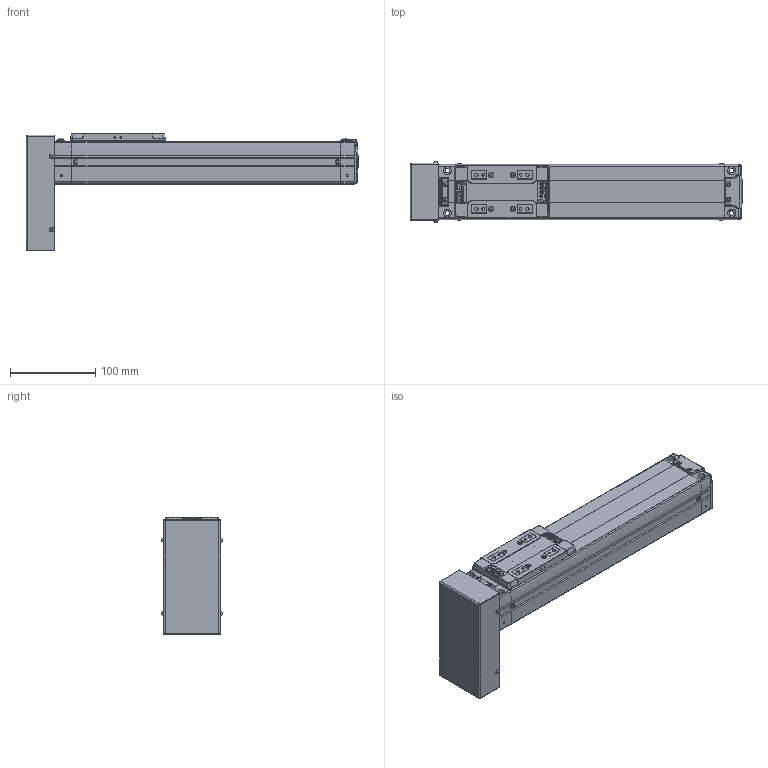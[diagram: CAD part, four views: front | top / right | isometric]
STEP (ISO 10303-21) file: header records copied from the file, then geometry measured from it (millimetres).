
FILE_DESCRIPTION(('STEP AP214'),'1');
FILE_NAME('Z:/Web/3D/SAN65/STP/SAN65ㅁㅁ-200PB.stp','2012-06-14T04:16:44',(' '),(' '),'Spatial InterOp 3D',' ',' ');
FILE_SCHEMA(('automotive_design'));
Length unit declared in the file: metre
Products named in the file (34): SAN65__-200; BODY-SAN65; REAR-SAN65; RRCV-SAN65; 스크루 : Round - M3.0 x 6.0; FRONT-SAN65; SHAFT-SAN65; RN8 x 0.75; SSFX-SAN65; SLIDE-SAN65; SLCV-SAN65; 스크루 : Countersunk - M3.0 x 6.0; ____198; PB; BTCV-SAN65; M3.0 x 6.0
Assembly tree (33 placements, depth 4):
  ____198
    SAN65__-200
      BODY-SAN65
      REAR-SAN65
        REAR-SAN65
        RRCV-SAN65
        스크루 : Round - M3.0 x 6.0
        스크루 : Round - M3.0 x 6.0
        스크루 : Round - M3.0 x 6.0
        스크루 : Round - M3.0 x 6.0
        스크루 : Round - M3.0 x 6.0
        스크루 : Round - M3.0 x 6.0
      FRONT-SAN65
        FRONT-SAN65
        SHAFT-SAN65
        RN8 x 0.75
        SSFX-SAN65
        스크루 : Round - M3.0 x 6.0
        스크루 : Round - M3.0 x 6.0
        스크루 : Round - M3.0 x 6.0
        스크루 : Round - M3.0 x 6.0
      SLIDE-SAN65
        SLIDE-SAN65
        SLCV-SAN65
        스크루 : Countersunk - M3.0 x 6.0
        스크루 : Countersunk - M3.0 x 6.0
        스크루 : Countersunk - M3.0 x 6.0
        스크루 : Countersunk - M3.0 x 6.0
    PB
      BTCV-SAN65
      M3.0 x 6.0
      M3.0 x 6.0
      M3.0 x 6.0
      M3.0 x 6.0
Bounding box: 390.15 x 71.13 x 138.5 mm (x, y, z)
Volume: 1448509.1 mm3; surface area: 193461.4 mm2
Topology: 28 solids, 28 shells, 1456 faces, 3736 edges, 2430 vertices
Faces by surface type: plane 891, cylinder 414, cone 77, bspline 30, sphere 26, torus 15, extrusion 3
Full cylindrical faces by diameter (mm): 0.571 x2, 0.706 x1, 1.727 x2, 2.132 x1, 2.2 x4, 2.5 x9, 2.528 x4, 3 x6, 3.121 x2, 3.3 x4, 3.4 x8, 3.5 x6, 4.2 x20, 4.849 x4, 5 x3, 5.5 x4, 5.987 x2, 6 x6, 6.35 x1, 7 x1, 8 x4, 9.5 x4, 13 x1, 15 x1, 19 x1, 26 x1, 38.1 x1
Entity records: 59688 total; most frequent: CARTESIAN_POINT 12330, DIRECTION 7327, ORIENTED_EDGE 6932, EDGE_CURVE 3466, AXIS2_PLACEMENT_3D 2489, VERTEX_POINT 2376, VECTOR 2349, LINE 2346
